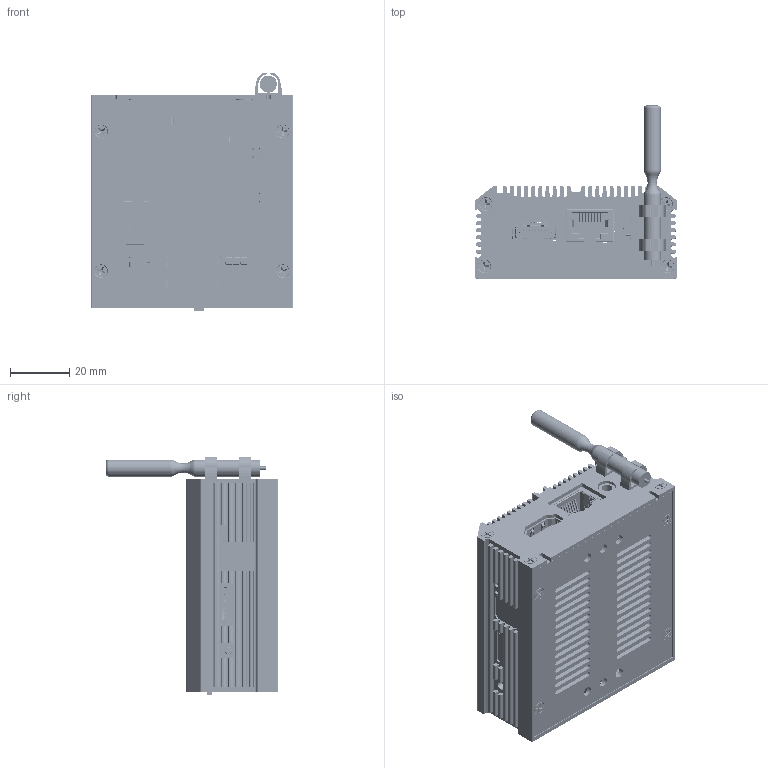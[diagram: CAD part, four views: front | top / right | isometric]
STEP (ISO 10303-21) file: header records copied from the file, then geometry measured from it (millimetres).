
FILE_DESCRIPTION (( 'STEP AP214' ), '1' );
FILE_NAME ('LubanCat A1-Q1.STEP', '2025-06-17T07:20:06', ( 'China' ), ( 'Microsoft' ), 'SwSTEP 2.0', 'SolidWorks 2021', '' );
FILE_SCHEMA (( 'AUTOMOTIVE_DESIGN' ));
Length unit declared in the file: millimetre
Products named in the file (30): LubanCat A1-Q1; M2.5X4麥芛蹟佪; LubanCat A1 撥臏翋极-20240415; 聆泂LED; 菁裔-20240415; ヶ醱啣-20240415; 边三脚侧插侧按按键254gf; TYPE-C 譫釱酗8.35mm 16P 泂え 錨璃; 眻脣宒綻俋-HS0038B4D; RJ45麥啣 湍腑 泂え_1; 毞盄釱; ufl毞盄釱赽; DIP 齬渀3pin; 賑雄羲壽9.1x3.5x3.0mm; 苤毞盄-20231018; ZH 2P 脣璃1.5MM; 綻俋敦諳; 全志H618 PCB-装配体-20230905; USB2.0邧脯橙晚 錨璃; 綴醱啣-20240415; HDMI 座子卧式 长度15 零件; PRT0003_1; DIP 齬渀2x13pin; 散热垫片-20240415; 揤穩蹟翐M2.5X4; User Library-Micro_SD_Socket_Push-push; SD縐; PRT0002_1; H618-PCB-20230905; PJ-3910-7A 3.5mm嫉儂釱赽
Assembly tree (48 placements, depth 4):
  LubanCat A1-Q1
    LubanCat A1 撥臏翋极-20240415
    菁裔-20240415
    全志H618 PCB-装配体-20230905
      H618-PCB-20230905
      HDMI 座子卧式 长度15 零件
      ufl毞盄釱赽
      USB2.0邧脯橙晚 錨璃  x2
      User Library-Micro_SD_Socket_Push-push
      眻脣宒綻俋-HS0038B4D
      ZH 2P 脣璃1.5MM
      DIP 齬渀2x13pin
      DIP 齬渀3pin
      SD縐
      PJ-3910-7A 3.5mm嫉儂釱赽
      RJ45麥啣 湍腑 泂え_1
        PRT0003_1
        PRT0002_1
      聆泂LED  x2
      边三脚侧插侧按按键254gf
      TYPE-C 譫釱酗8.35mm 16P 泂え 錨璃
      賑雄羲壽9.1x3.5x3.0mm
    苤毞盄-20231018
    毞盄釱  x2
    ヶ醱啣-20240415
    綴醱啣-20240415
    M2.5X4麥芛蹟佪  x14
    散热垫片-20240415
    揤穩蹟翐M2.5X4  x4
    綻俋敦諳
Bounding box: 68 x 58.1 x 79.92 mm (x, y, z)
Volume: 57505.1 mm3; surface area: 74987.1 mm2
Topology: 106 solids, 108 shells, 10167 faces, 27170 edges, 17470 vertices
Faces by surface type: plane 7175, cylinder 2103, bspline 685, cone 164, torus 30, sphere 10
Entity records: 361231 total; most frequent: CARTESIAN_POINT 83811, ORIENTED_EDGE 47910, DIRECTION 41874, EDGE_CURVE 23957, LINE 18748, VECTOR 18748, VERTEX_POINT 15474, AXIS2_PLACEMENT_3D 11563
